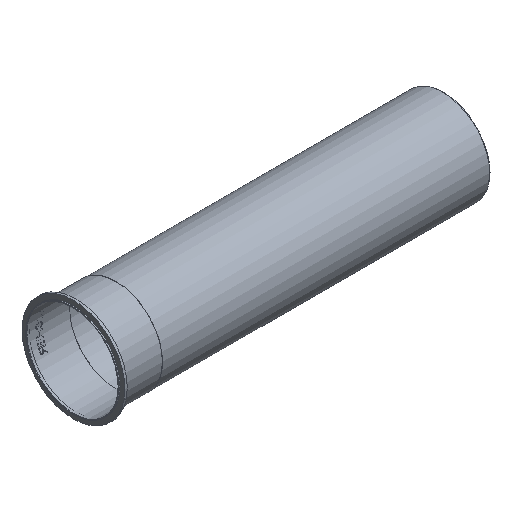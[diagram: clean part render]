
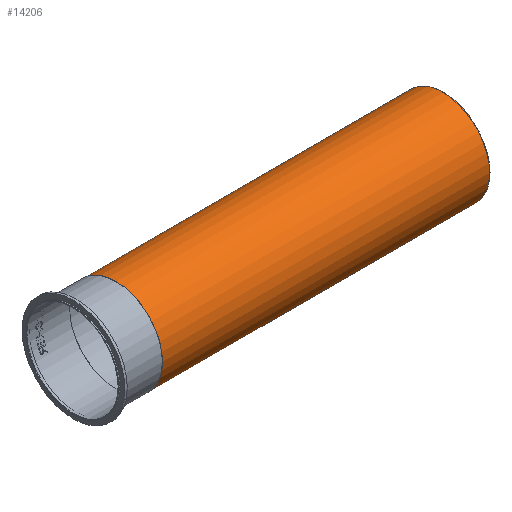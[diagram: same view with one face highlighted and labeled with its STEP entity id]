
A CAD part, isometric view. The second image highlights one B-rep face of the part: STEP entity #14206.
In plain terms, the highlighted cylindrical face has radius 124.968 mm (diameter 249.936 mm), a full revolution.
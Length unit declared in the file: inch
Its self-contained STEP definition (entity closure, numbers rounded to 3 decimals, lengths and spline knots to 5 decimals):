
#14175=CARTESIAN_POINT('',(4.63,4.92,0.0));
#14176=VERTEX_POINT('',#14175);
#14177=CARTESIAN_POINT('',(4.63,0.0,0.0));
#14178=DIRECTION('',(1.0,0.0,0.0));
#14179=DIRECTION('',(0.0,1.0,0.0));
#14180=AXIS2_PLACEMENT_3D('',#14177,#14178,#14179);
#14181=CIRCLE('',#14180,4.92);
#14182=EDGE_CURVE('',#14176,#14176,#14181,.T.);
#14187=CARTESIAN_POINT('',(22.00004,0.0,0.0));
#14188=DIRECTION('',(1.0,0.0,0.0));
#14189=DIRECTION('',(0.0,1.0,0.0));
#14190=AXIS2_PLACEMENT_3D('',#14187,#14188,#14189);
#14191=CYLINDRICAL_SURFACE('',#14190,4.92);
#14192=CARTESIAN_POINT('',(39.37008,4.92,0.0));
#14193=VERTEX_POINT('',#14192);
#14194=CARTESIAN_POINT('',(39.37008,0.0,0.0));
#14195=DIRECTION('',(1.0,0.0,0.0));
#14196=DIRECTION('',(0.0,1.0,0.0));
#14197=AXIS2_PLACEMENT_3D('',#14194,#14195,#14196);
#14198=CIRCLE('',#14197,4.92);
#14199=EDGE_CURVE('',#14193,#14193,#14198,.T.);
#14200=ORIENTED_EDGE('',*,*,#14199,.F.);
#14201=EDGE_LOOP('',(#14200));
#14202=FACE_OUTER_BOUND('',#14201,.T.);
#14203=ORIENTED_EDGE('',*,*,#14182,.T.);
#14204=EDGE_LOOP('',(#14203));
#14205=FACE_BOUND('',#14204,.T.);
#14206=ADVANCED_FACE('',(#14202,#14205),#14191,.T.);
